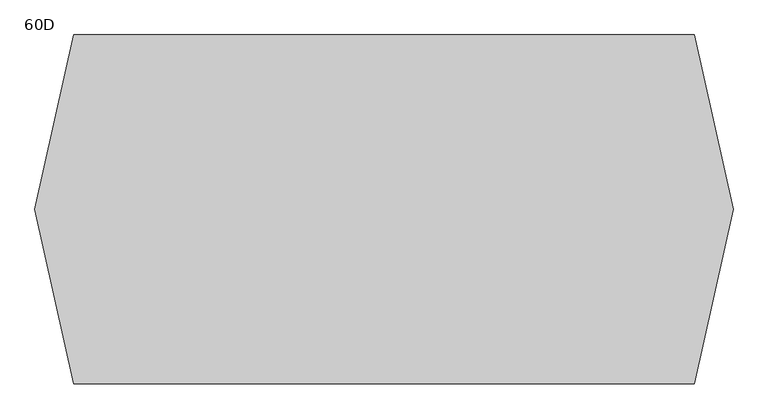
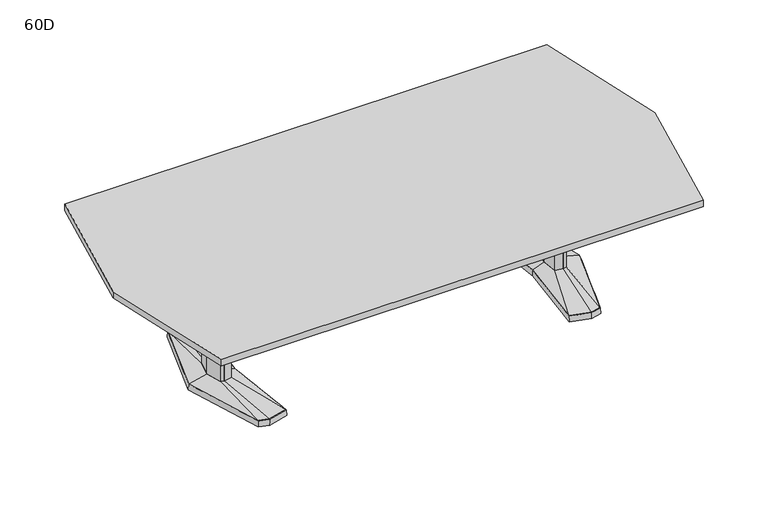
"""IFC4 building model written with IfcOpenShell, lengths in millimetres: furniture geometry, Coalesse_AM_Table_Conference_ETable2_Faceted_10ft_AluminiumBase : 60D."""

from ifc_helpers import new_model, si_unit, frame, origin, place, context, project, spatial, polyline, outline, extrude, faceted_brep, source, transform, mapped, element, save
from ifc_brep_helpers import plane_surface, spline_surface, advanced_brep


def furniture_60d_8eb450e1(model_context):
    return source(origin(), model_context, "Body", "SolidModel", [
        faceted_brep([(905.8773747, 455.5848221, 38.1), (796.2998188, 426.2263816, 38.1), (837.4630629, 0.0, 38.1), (796.2998188, -426.2263816, 38.1), (905.8773747, -455.5848221, 38.1), (962.0037308, -440.5478297, 38.1), (1099.3151181, 0.0, 38.1), (962.0037308, 440.5478297, 38.1), (905.8773666, 457.2283104, 3.175), (963.2591384, 441.8549756, 3.175), (1100.9779412, 0.0, 3.175), (963.2591384, -441.8549756, 3.175), (905.8773666, -457.2283104, 3.175), (794.5904412, -427.4118891, 3.175), (835.8681768, 0.0, 3.175), (794.5904412, 427.4118891, 3.175), (909.4668062, 428.3273875, 3.175), (804.418514, 402.1057253, 3.175), (812.5372092, 377.985069, 3.175), (913.0562377, 401.0699529, 3.175), (963.6158637, 387.524361, 3.175), (962.8097973, 414.0360954, 3.175), (909.4668062, -428.3273875, 3.175), (962.8097973, -414.0360954, 3.175), (963.6158637, -387.524361, 3.175), (913.0562377, -401.0699529, 3.175), (812.5372092, -377.985069, 3.175), (804.418514, -402.1057253, 3.175), (1036.0620533, 0.0, 3.175), (1003.7926523, 120.4193755, 3.175), (955.1454133, 133.471665, 3.175), (875.2647438, 119.4176561, 3.175), (864.1335378, 0.0, 3.175), (875.2647438, -119.4176561, 3.175), (955.1454133, -133.471665, 3.175), (1003.7926523, -120.4193755, 3.175), (909.4668062, 428.3273875, 0.0), (962.8097973, 414.0360954, 0.0), (963.6158637, 387.524361, 0.0), (913.0562377, 401.0699529, 0.0), (812.5372092, 377.985069, 0.0), (804.418514, 402.1057253, 0.0), (909.4668062, -428.3273875, 0.0), (804.418514, -402.1057253, 0.0), (812.5372092, -377.985069, 0.0), (913.0562377, -401.0699529, 0.0), (963.6158637, -387.524361, 0.0), (962.8097973, -414.0360954, 0.0), (1036.0620533, 0.0, 0.0), (1003.7926523, -120.4193755, 0.0), (955.1454133, -133.471665, 0.0), (875.2647438, -119.4176561, 0.0), (864.1335378, 0.0, 0.0), (875.2647438, 119.4176561, 0.0), (955.1454133, 133.471665, 0.0), (1003.7926523, 120.4193755, 0.0)], [[[0, 1, 2, 3, 4, 5, 6, 7]], [[8, 9, 10, 11, 12, 13, 14, 15], [16, 17, 18, 19, 20, 21], [22, 23, 24, 25, 26, 27], [28, 29, 30, 31, 32, 33, 34, 35]], [[7, 9, 8, 0]], [[6, 10, 9, 7]], [[5, 11, 10, 6]], [[4, 12, 11, 5]], [[3, 13, 12, 4]], [[2, 14, 13, 3]], [[1, 15, 14, 2]], [[0, 8, 15, 1]], [[36, 37, 38, 39, 40, 41]], [[42, 43, 44, 45, 46, 47]], [[48, 49, 50, 51, 52, 53, 54, 55]], [[36, 16, 21, 37]], [[37, 21, 20, 38]], [[38, 20, 19, 39]], [[39, 19, 18, 40]], [[40, 18, 17, 41]], [[41, 17, 16, 36]], [[42, 22, 27, 43]], [[43, 27, 26, 44]], [[44, 26, 25, 45]], [[45, 25, 24, 46]], [[46, 24, 23, 47]], [[47, 23, 22, 42]], [[48, 28, 35, 49]], [[49, 35, 34, 50]], [[50, 34, 33, 51]], [[51, 33, 32, 52]], [[52, 32, 31, 53]], [[53, 31, 30, 54]], [[54, 30, 29, 55]], [[55, 29, 28, 48]]]),
        faceted_brep([(996.6177748, 0.0, 698.5), (972.6825457, 89.3188359, 698.5), (955.8291896, 93.8406728, 698.5), (953.4293423, 94.4845635, 698.5), (910.5018372, 86.9320037, 698.5), (902.3986967, 0.0, 698.5), (910.5018372, -86.9320037, 698.5), (953.4293423, -94.4845635, 698.5), (955.8291896, -93.8406728, 698.5), (972.6825457, -89.3188359, 698.5), (996.6177748, 0.0, 63.5), (972.6825457, -89.3188359, 63.5), (955.8291896, -93.8406728, 63.5), (953.4293423, -94.4845635, 63.5), (910.5018372, -86.9320037, 63.5), (902.3986967, 0.0, 63.5), (910.5018372, 86.9320037, 63.5), (953.4293423, 94.4845635, 63.5), (955.8291896, 93.8406728, 63.5), (972.6825457, 89.3188359, 63.5)], [[[0, 1, 2, 3, 4, 5, 6, 7, 8, 9]], [[10, 11, 12, 13, 14, 15, 16, 17, 18, 19]], [[9, 11, 10, 0]], [[8, 12, 11, 9]], [[7, 13, 12, 8]], [[6, 14, 13, 7]], [[5, 15, 14, 6]], [[4, 16, 15, 5]], [[3, 17, 16, 4]], [[2, 18, 17, 3]], [[1, 19, 18, 2]], [[0, 10, 19, 1]]]),
        advanced_brep(
        [(953.4293423, 94.4845635, 63.5), (910.5018372, 86.9320037, 63.5), (902.3986967, 0.0, 63.5), (910.5018372, -86.9320037, 63.5), (953.4293423, -94.4845635, 63.5), (972.6825457, -89.3188359, 63.5), (996.6177748, 0.0, 63.5), (972.6825457, 89.3188359, 63.5), (905.8773747, 455.5848221, 38.1), (962.0037308, 440.5478297, 38.1), (1099.3151181, 0.0, 38.1), (962.0037308, -440.5478297, 38.1), (905.8773747, -455.5848221, 38.1), (796.2998188, -426.2263816, 38.1), (837.4630629, 0.0, 38.1), (796.2998188, 426.2263816, 38.1)],
        [
            (0, 1),
            (1, 2),
            (2, 3),
            (3, 4),
            (4, 5),
            (5, 6),
            (6, 7),
            (7, 0),
            (8, 9),
            (9, 10),
            (10, 11),
            (11, 12),
            (12, 13),
            (13, 14),
            (14, 15),
            (15, 8),
            (8, 0),
            (7, 9),
            (6, 10),
            (5, 11),
            (4, 12),
            (3, 13),
            (2, 14),
            (1, 15),
        ],
        [
            plane_surface(frame((946.5304902, 0.0, 63.5), z_axis=(0.0, 0.0, 1.0), x_axis=(-0.25884244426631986, -0.9659195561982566, 0.0))),
            plane_surface(frame((908.1425037, 0.0, 38.1), z_axis=(0.0, 0.0, -1.0), x_axis=(-0.25884244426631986, -0.9659195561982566, 0.0))),
            spline_surface(1, 1, [[(905.8773747, 455.5848221, 38.1), (962.0037308, 440.5478297, 38.1)], [(953.4293423, 94.4845635, 63.5), (972.6825457, 89.3188359, 63.5)]], [2, 2], [2, 2], [0.0, 1.0], [0.0, 1.0]),
            spline_surface(1, 1, [[(962.0037308, 440.5478297, 38.1), (1099.3151181, 0.0, 38.1)], [(972.6825457, 89.3188359, 63.5), (996.6177748, 0.0, 63.5)]], [2, 2], [2, 2], [0.0, 1.0], [0.0, 1.0]),
            spline_surface(1, 1, [[(1099.3151181, 0.0, 38.1), (962.0037308, -440.5478297, 38.1)], [(996.6177748, 0.0, 63.5), (972.6825457, -89.3188359, 63.5)]], [2, 2], [2, 2], [0.0, 1.0], [0.0, 1.0]),
            spline_surface(1, 1, [[(962.0037308, -440.5478297, 38.1), (905.8773747, -455.5848221, 38.1)], [(972.6825457, -89.3188359, 63.5), (953.4293423, -94.4845635, 63.5)]], [2, 2], [2, 2], [0.0, 1.0], [0.0, 1.0]),
            spline_surface(1, 1, [[(905.8773747, -455.5848221, 38.1), (796.2998188, -426.2263816, 38.1)], [(953.4293423, -94.4845635, 63.5), (910.5018372, -86.9320037, 63.5)]], [2, 2], [2, 2], [0.0, 1.0], [0.0, 1.0]),
            spline_surface(1, 1, [[(796.2998188, -426.2263816, 38.1), (837.4630629, 0.0, 38.1)], [(910.5018372, -86.9320037, 63.5), (902.3986967, 0.0, 63.5)]], [2, 2], [2, 2], [0.0, 1.0], [0.0, 1.0]),
            spline_surface(1, 1, [[(837.4630629, 0.0, 38.1), (796.2998188, 426.2263816, 38.1)], [(902.3986967, 0.0, 63.5), (910.5018372, 86.9320037, 63.5)]], [2, 2], [2, 2], [0.0, 1.0], [0.0, 1.0]),
            spline_surface(1, 1, [[(796.2998188, 426.2263816, 38.1), (905.8773747, 455.5848221, 38.1)], [(910.5018372, 86.9320037, 63.5), (953.4293423, 94.4845635, 63.5)]], [2, 2], [2, 2], [0.0, 1.0], [0.0, 1.0]),
        ],
        [
            (0, [[1, 2, 3, 4, 5, 6, 7, 8]]),
            (1, [[9, 10, 11, 12, 13, 14, 15, 16]]),
            (2, [[17, -8, 18, -9]]),
            (3, [[-18, -7, 19, -10]]),
            (4, [[-19, -6, 20, -11]]),
            (5, [[-20, -5, 21, -12]]),
            (6, [[-21, -4, 22, -13]]),
            (7, [[-22, -3, 23, -14]]),
            (8, [[-23, -2, 24, -15]]),
            (9, [[-24, -1, -17, -16]]),
        ],
    ),
        faceted_brep([(-905.8306835, 455.5848221, 38.1), (-961.9570396, 440.5478297, 38.1), (-1099.2684269, 0.0, 38.1), (-961.9570396, -440.5478297, 38.1), (-905.8306835, -455.5848221, 38.1), (-796.2531277, -426.2263816, 38.1), (-837.4163717, 0.0, 38.1), (-796.2531277, 426.2263816, 38.1), (-905.8306754, 457.2283104, 3.175), (-794.54375, 427.4118891, 3.175), (-835.8214856, 0.0, 3.175), (-794.54375, -427.4118891, 3.175), (-905.8306754, -457.2283104, 3.175), (-963.2124472, -441.8549756, 3.175), (-1100.93125, 0.0, 3.175), (-963.2124472, 441.8549756, 3.175), (-909.420115, 428.3273875, 3.175), (-962.7631061, 414.0360954, 3.175), (-963.5691725, 387.524361, 3.175), (-913.0095466, 401.0699529, 3.175), (-812.490518, 377.985069, 3.175), (-804.3718228, 402.1057253, 3.175), (-909.420115, -428.3273875, 3.175), (-804.3718228, -402.1057253, 3.175), (-812.490518, -377.985069, 3.175), (-913.0095466, -401.0699529, 3.175), (-963.5691725, -387.524361, 3.175), (-962.7631061, -414.0360954, 3.175), (-1036.0153621, 0.0, 3.175), (-1003.7459611, -120.4193755, 3.175), (-955.0987222, -133.471665, 3.175), (-875.2180526, -119.4176561, 3.175), (-864.0868466, 0.0, 3.175), (-875.2180526, 119.4176561, 3.175), (-955.0987222, 133.471665, 3.175), (-1003.7459611, 120.4193755, 3.175), (-909.420115, 428.3273875, 0.0), (-804.3718228, 402.1057253, 0.0), (-812.490518, 377.985069, 0.0), (-913.0095466, 401.0699529, 0.0), (-963.5691725, 387.524361, 0.0), (-962.7631061, 414.0360954, 0.0), (-909.420115, -428.3273875, 0.0), (-962.7631061, -414.0360954, 0.0), (-963.5691725, -387.524361, 0.0), (-913.0095466, -401.0699529, 0.0), (-812.490518, -377.985069, 0.0), (-804.3718228, -402.1057253, 0.0), (-1036.0153621, 0.0, 0.0), (-1003.7459611, 120.4193755, 0.0), (-955.0987222, 133.471665, 0.0), (-875.2180526, 119.4176561, 0.0), (-864.0868466, 0.0, 0.0), (-875.2180526, -119.4176561, 0.0), (-955.0987222, -133.471665, 0.0), (-1003.7459611, -120.4193755, 0.0)], [[[0, 1, 2, 3, 4, 5, 6, 7]], [[8, 9, 10, 11, 12, 13, 14, 15], [16, 17, 18, 19, 20, 21], [22, 23, 24, 25, 26, 27], [28, 29, 30, 31, 32, 33, 34, 35]], [[1, 0, 8, 15]], [[2, 1, 15, 14]], [[3, 2, 14, 13]], [[4, 3, 13, 12]], [[5, 4, 12, 11]], [[6, 5, 11, 10]], [[7, 6, 10, 9]], [[0, 7, 9, 8]], [[36, 37, 38, 39, 40, 41]], [[42, 43, 44, 45, 46, 47]], [[48, 49, 50, 51, 52, 53, 54, 55]], [[36, 41, 17, 16]], [[41, 40, 18, 17]], [[40, 39, 19, 18]], [[39, 38, 20, 19]], [[38, 37, 21, 20]], [[37, 36, 16, 21]], [[42, 47, 23, 22]], [[47, 46, 24, 23]], [[46, 45, 25, 24]], [[45, 44, 26, 25]], [[44, 43, 27, 26]], [[43, 42, 22, 27]], [[48, 55, 29, 28]], [[55, 54, 30, 29]], [[54, 53, 31, 30]], [[53, 52, 32, 31]], [[52, 51, 33, 32]], [[51, 50, 34, 33]], [[50, 49, 35, 34]], [[49, 48, 28, 35]]]),
        faceted_brep([(-996.5710836, 0.0, 698.5), (-972.6358546, -89.3188359, 698.5), (-955.7824984, -93.8406728, 698.5), (-953.3826511, -94.4845635, 698.5), (-910.455146, -86.9320037, 698.5), (-902.3520056, 0.0, 698.5), (-910.455146, 86.9320037, 698.5), (-953.3826511, 94.4845635, 698.5), (-955.7824984, 93.8406728, 698.5), (-972.6358546, 89.3188359, 698.5), (-996.5710836, 0.0, 63.5), (-972.6358546, 89.3188359, 63.5), (-955.7824984, 93.8406728, 63.5), (-953.3826511, 94.4845635, 63.5), (-910.455146, 86.9320037, 63.5), (-902.3520056, 0.0, 63.5), (-910.455146, -86.9320037, 63.5), (-953.3826511, -94.4845635, 63.5), (-955.7824984, -93.8406728, 63.5), (-972.6358546, -89.3188359, 63.5)], [[[0, 1, 2, 3, 4, 5, 6, 7, 8, 9]], [[10, 11, 12, 13, 14, 15, 16, 17, 18, 19]], [[1, 0, 10, 19]], [[2, 1, 19, 18]], [[3, 2, 18, 17]], [[4, 3, 17, 16]], [[5, 4, 16, 15]], [[6, 5, 15, 14]], [[7, 6, 14, 13]], [[8, 7, 13, 12]], [[9, 8, 12, 11]], [[0, 9, 11, 10]]]),
        advanced_brep(
        [(-953.3826511, 94.4845635, 63.5), (-972.6358546, 89.3188359, 63.5), (-996.5710836, 0.0, 63.5), (-972.6358546, -89.3188359, 63.5), (-953.3826511, -94.4845635, 63.5), (-910.455146, -86.9320037, 63.5), (-902.3520056, 0.0, 63.5), (-910.455146, 86.9320037, 63.5), (-905.8306835, 455.5848221, 38.1), (-796.2531277, 426.2263816, 38.1), (-837.4163717, 0.0, 38.1), (-796.2531277, -426.2263816, 38.1), (-905.8306835, -455.5848221, 38.1), (-961.9570396, -440.5478297, 38.1), (-1099.2684269, 0.0, 38.1), (-961.9570396, 440.5478297, 38.1)],
        [
            (0, 1),
            (1, 2),
            (2, 3),
            (3, 4),
            (4, 5),
            (5, 6),
            (6, 7),
            (7, 0),
            (8, 9),
            (9, 10),
            (10, 11),
            (11, 12),
            (12, 13),
            (13, 14),
            (14, 15),
            (15, 8),
            (15, 1),
            (0, 8),
            (14, 2),
            (13, 3),
            (12, 4),
            (11, 5),
            (10, 6),
            (9, 7),
        ],
        [
            plane_surface(frame((-946.4837991, 0.0, 63.5), z_axis=(0.0, 0.0, 1.0), x_axis=(0.25884244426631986, -0.9659195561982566, 0.0))),
            plane_surface(frame((-908.0958125, 0.0, 38.1), z_axis=(0.0, 0.0, -1.0), x_axis=(0.25884244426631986, -0.9659195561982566, 0.0))),
            spline_surface(1, 1, [[(-905.8306835, 455.5848221, 38.1), (-953.3826511, 94.4845635, 63.5)], [(-961.9570396, 440.5478297, 38.1), (-972.6358546, 89.3188359, 63.5)]], [2, 2], [2, 2], [0.0, 1.0], [0.0, 1.0]),
            spline_surface(1, 1, [[(-961.9570396, 440.5478297, 38.1), (-972.6358546, 89.3188359, 63.5)], [(-1099.2684269, 0.0, 38.1), (-996.5710836, 0.0, 63.5)]], [2, 2], [2, 2], [0.0, 1.0], [0.0, 1.0]),
            spline_surface(1, 1, [[(-1099.2684269, 0.0, 38.1), (-996.5710836, 0.0, 63.5)], [(-961.9570396, -440.5478297, 38.1), (-972.6358546, -89.3188359, 63.5)]], [2, 2], [2, 2], [0.0, 1.0], [0.0, 1.0]),
            spline_surface(1, 1, [[(-961.9570396, -440.5478297, 38.1), (-972.6358546, -89.3188359, 63.5)], [(-905.8306835, -455.5848221, 38.1), (-953.3826511, -94.4845635, 63.5)]], [2, 2], [2, 2], [0.0, 1.0], [0.0, 1.0]),
            spline_surface(1, 1, [[(-905.8306835, -455.5848221, 38.1), (-953.3826511, -94.4845635, 63.5)], [(-796.2531277, -426.2263816, 38.1), (-910.455146, -86.9320037, 63.5)]], [2, 2], [2, 2], [0.0, 1.0], [0.0, 1.0]),
            spline_surface(1, 1, [[(-796.2531277, -426.2263816, 38.1), (-910.455146, -86.9320037, 63.5)], [(-837.4163717, 0.0, 38.1), (-902.3520056, 0.0, 63.5)]], [2, 2], [2, 2], [0.0, 1.0], [0.0, 1.0]),
            spline_surface(1, 1, [[(-837.4163717, 0.0, 38.1), (-902.3520056, 0.0, 63.5)], [(-796.2531277, 426.2263816, 38.1), (-910.455146, 86.9320037, 63.5)]], [2, 2], [2, 2], [0.0, 1.0], [0.0, 1.0]),
            spline_surface(1, 1, [[(-796.2531277, 426.2263816, 38.1), (-910.455146, 86.9320037, 63.5)], [(-905.8306835, 455.5848221, 38.1), (-953.3826511, 94.4845635, 63.5)]], [2, 2], [2, 2], [0.0, 1.0], [0.0, 1.0]),
        ],
        [
            (0, [[1, 2, 3, 4, 5, 6, 7, 8]]),
            (1, [[9, 10, 11, 12, 13, 14, 15, 16]]),
            (2, [[-16, 17, -1, 18]]),
            (3, [[-15, 19, -2, -17]]),
            (4, [[-14, 20, -3, -19]]),
            (5, [[-13, 21, -4, -20]]),
            (6, [[-12, 22, -5, -21]]),
            (7, [[-11, 23, -6, -22]]),
            (8, [[-10, 24, -7, -23]]),
            (9, [[-9, -18, -8, -24]]),
        ],
    ),
        extrude(outline(polyline([(-1524.0, 0.0), (-1355.0677242, 762.0), (1355.0677242, 762.0), (1524.0, 0.0), (1355.0677242, -762.0), (-1355.0677242, -762.0), (-1524.0, 0.0)])), frame((0.0, 0.0, 698.5), z_axis=(0.0, 0.0, 1.0), x_axis=(1.0, 0.0, 0.0)), (0.0, 0.0, 1.0), 38.1),
        extrude(outline(polyline([(96.8375, 698.5), (103.1875, 698.5), (103.1875, 476.25), (-103.1875, 476.25), (-103.1875, 698.5), (-96.8375, 698.5), (-96.8375, 482.6), (96.8375, 482.6), (96.8375, 698.5)])), frame((-902.3520056, 0.0, 0.0), z_axis=(1.0, 0.0, 0.0), x_axis=(0.0, 1.0, 0.0)), (0.0, 0.0, 1.0), 1804.7507023),
    ])


if __name__ == "__main__":
    model = new_model("IFC4")
    model_context = context("Model", 3, world=origin())
    ifc_project = project(units=[si_unit("LENGTHUNIT", "METRE", prefix="MILLI")], contexts=[model_context])
    site = spatial("IfcSite", under=ifc_project)
    building = spatial("IfcBuilding", under=site)
    placement = place(None, origin())
    furniture_60d_shape = furniture_60d_8eb450e1(model_context)
    element("IfcFurniture", 1, ObjectType="Coalesse_AM_Table_Conference_ETable2_Faceted_10ft_AluminiumBase : 60D", at=placement, inside=building, context=model_context, shape_type="MappedRepresentation", body=[
        mapped(furniture_60d_shape, transform((0.0, 0.0, 0.0), x_axis=(1.0, 0.0, 0.0), y_axis=(0.0, 1.0, 0.0), z_axis=(0.0, 0.0, 1.0))),
    ])
    save(model, "model.ifc")
